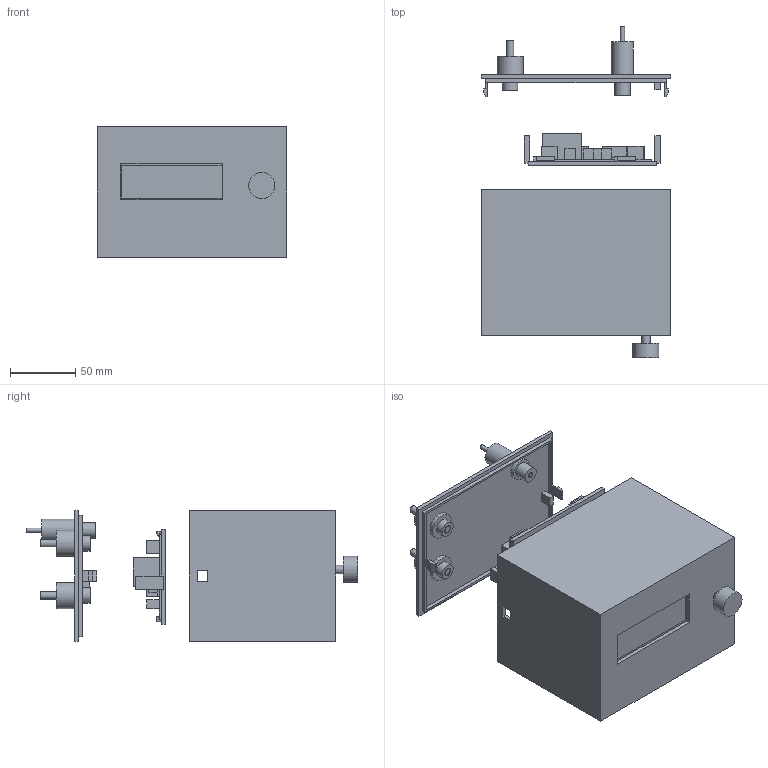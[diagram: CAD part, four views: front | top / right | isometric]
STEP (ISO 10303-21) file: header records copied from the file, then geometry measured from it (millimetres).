
FILE_DESCRIPTION(('Open CASCADE Model'),'2;1');
FILE_NAME('Open CASCADE Shape Model','2026-11-04T18:24:56',('Author'),( 'Open CASCADE'),'Open CASCADE STEP processor 7.8','Open CASCADE 7.8' ,'Unknown');
FILE_SCHEMA(('AUTOMOTIVE_DESIGN { 1 0 10303 214 1 1 1 1 }'));
Length unit declared in the file: millimetre
Products named in the file (63): Exploded_fit_study_01; 01_Main_shell_with_LCD_and_A_clips; 02_B_removable_carrier_with_clips; 03_Rear_panel_with_latches; PCB_A; A_U1_ENVELOPE; A_U2_ENVELOPE; A_J1_ENVELOPE; A_J6_ENVELOPE; A_J7_ENVELOPE; A_J2_ENVELOPE; A_J3_ENVELOPE; A_J4_ENVELOPE; A_J5_ENVELOPE; A_JP1_ENVELOPE; A_C1_ENVELOPE; A_C2_ENVELOPE; A_C3_ENVELOPE; A_R1_ENVELOPE; A_R2_ENVELOPE; A_R3_ENVELOPE; A_R4_ENVELOPE; A_R5_ENVELOPE; PCB_B; B_U1_ENVELOPE; B_U2_ENVELOPE; B_U3_ENVELOPE; B_U4_ENVELOPE; B_Q1_ENVELOPE; B_F1_ENVELOPE; B_D1_ENVELOPE; B_D2_ENVELOPE; B_J2_ENVELOPE; B_J3_ENVELOPE; B_J4_ENVELOPE; B_J1_ENVELOPE; B_J6_ENVELOPE; B_J7_ENVELOPE; B_C1_ENVELOPE; B_C2_ENVELOPE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
Assembly tree (62 placements, depth 2):
  Exploded_fit_study_01
    01_Main_shell_with_LCD_and_A_clips
    02_B_removable_carrier_with_clips
    03_Rear_panel_with_latches
    PCB_A
    A_U1_ENVELOPE
    A_U2_ENVELOPE
    A_J1_ENVELOPE
    A_J6_ENVELOPE
    A_J7_ENVELOPE
    A_J2_ENVELOPE
    A_J3_ENVELOPE
    A_J4_ENVELOPE
    A_J5_ENVELOPE
    A_JP1_ENVELOPE
    A_C1_ENVELOPE
    A_C2_ENVELOPE
    A_C3_ENVELOPE
    A_R1_ENVELOPE
    A_R2_ENVELOPE
    A_R3_ENVELOPE
    A_R4_ENVELOPE
    A_R5_ENVELOPE
    PCB_B
    B_U1_ENVELOPE
    B_U2_ENVELOPE
    B_U3_ENVELOPE
    B_U4_ENVELOPE
    B_Q1_ENVELOPE
    B_F1_ENVELOPE
    B_D1_ENVELOPE
    B_D2_ENVELOPE
    B_J2_ENVELOPE
    B_J3_ENVELOPE
    B_J4_ENVELOPE
    B_J1_ENVELOPE
    B_J6_ENVELOPE
    B_J7_ENVELOPE
    B_C1_ENVELOPE
    B_C2_ENVELOPE
    B_C3_ENVELOPE
    B_C4_ENVELOPE
    B_C5_ENVELOPE
    B_R1_ENVELOPE
    B_R2_ENVELOPE
    B_R3_ENVELOPE
    B_R4_ENVELOPE
    B_R5_ENVELOPE
    B_R6_ENVELOPE
    B_R7_ENVELOPE
    LCD_PCB_98x60_TBD
    LCD_front_bezel_TBD
    LCD_backpack_TBD
    LCD_visible_screen
    Encoder_body_TBD
    Encoder_shaft
    Encoder_knob_TBD
    BULKHEAD_POWER_12V_TBD
    CABLE_POWER_12V
    BULKHEAD_HEATER_TBD
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Bounding box: 145 x 254 x 100 mm (x, y, z)
Volume: 437991.1 mm3; surface area: 288100 mm2
Topology: 62 solids, 62 shells, 619 faces, 1398 edges, 930 vertices
Faces by surface type: plane 595, cylinder 24
Full cylindrical faces by diameter (mm): 3.5 x1, 4.3 x1, 5.5 x2, 6.3 x2, 6.4 x1, 7.2 x1, 12 x6, 12.4 x1, 12.5 x2, 17 x2, 20 x5
Entity records: 36713 total; most frequent: CARTESIAN_POINT 5806, DIRECTION 5606, LINE 4098, VECTOR 4098, ORIENTED_EDGE 2796, PCURVE 2796, DEFINITIONAL_REPRESENTATION 2796, EDGE_CURVE 1398
